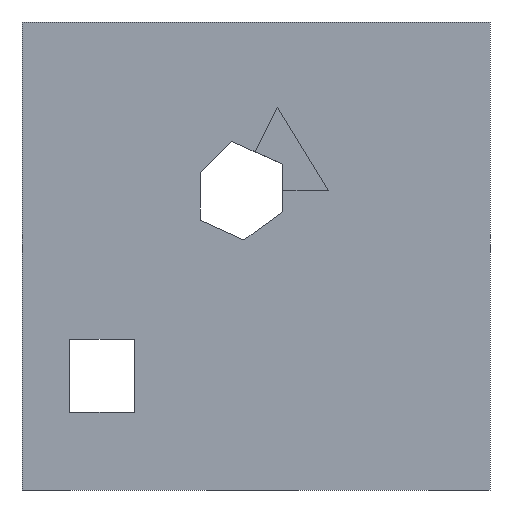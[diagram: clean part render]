
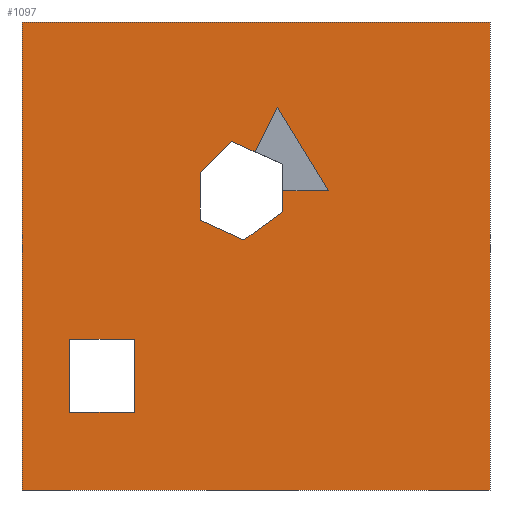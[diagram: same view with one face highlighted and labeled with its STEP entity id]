
A CAD part, front view. The second image highlights one B-rep face of the part: STEP entity #1097.
In plain terms, the highlighted planar face has unit normal (0, -1, 0).
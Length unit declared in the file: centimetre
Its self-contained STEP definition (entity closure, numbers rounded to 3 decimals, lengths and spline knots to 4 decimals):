
#9 = CARTESIAN_POINT ( 'NONE',  ( 101.6068, 0., 322.6308 ) ) ;
#14 = EDGE_CURVE ( 'NONE', #613, #1348, #442, .T. ) ;
#21 = VERTEX_POINT ( 'NONE', #1496 ) ;
#29 = DIRECTION ( 'NONE',  ( -0.911, 0., 0.412 ) ) ;
#37 = EDGE_CURVE ( 'NONE', #891, #518, #1052, .T. ) ;
#48 = CARTESIAN_POINT ( 'NONE',  ( 101.6068, 0., 166.4445 ) ) ;
#52 = CARTESIAN_POINT ( 'NONE',  ( 0., 0., 1000. ) ) ;
#54 = EDGE_CURVE ( 'NONE', #941, #331, #1016, .T. ) ;
#59 = EDGE_CURVE ( 'NONE', #96, #21, #193, .T. ) ;
#60 = ORIENTED_EDGE ( 'NONE', *, *, #14, .T. ) ;
#61 = DIRECTION ( 'NONE',  ( 0., 0., -1. ) ) ;
#90 = CARTESIAN_POINT ( 'NONE',  ( 1000., 0., 1000. ) ) ;
#96 = VERTEX_POINT ( 'NONE', #1067 ) ;
#103 = DIRECTION ( 'NONE',  ( 0., 0., 1. ) ) ;
#118 = VECTOR ( 'NONE', #29, 100. ) ;
#126 = CARTESIAN_POINT ( 'NONE',  ( 380.5098, 0., 576.5022 ) ) ;
#127 = VECTOR ( 'NONE', #1493, 100. ) ;
#138 = DIRECTION ( 'NONE',  ( 0.707, 0., 0.707 ) ) ;
#139 = ORIENTED_EDGE ( 'NONE', *, *, #1173, .T. ) ;
#164 = ORIENTED_EDGE ( 'NONE', *, *, #59, .F. ) ;
#171 = VECTOR ( 'NONE', #832, 100. ) ;
#193 = LINE ( 'NONE', #676, #361 ) ;
#200 = CARTESIAN_POINT ( 'NONE',  ( 474.02, 0., 534.2668 ) ) ;
#207 = ORIENTED_EDGE ( 'NONE', *, *, #1379, .T. ) ;
#224 = EDGE_CURVE ( 'NONE', #1199, #1278, #1201, .T. ) ;
#230 = LINE ( 'NONE', #1431, #598 ) ;
#258 = CARTESIAN_POINT ( 'NONE',  ( 474.02, 0., 534.2668 ) ) ;
#259 = CARTESIAN_POINT ( 'NONE',  ( 380.5098, 0., 678.6021 ) ) ;
#279 = EDGE_CURVE ( 'NONE', #740, #613, #1332, .T. ) ;
#305 = DIRECTION ( 'NONE',  ( 0., 0., -1. ) ) ;
#309 = CARTESIAN_POINT ( 'NONE',  ( 101.6068, 0., 166.4445 ) ) ;
#312 = VECTOR ( 'NONE', #448, 100. ) ;
#325 = VERTEX_POINT ( 'NONE', #1116 ) ;
#331 = VERTEX_POINT ( 'NONE', #1373 ) ;
#338 = DIRECTION ( 'NONE',  ( 1., 0., 0. ) ) ;
#339 = VECTOR ( 'NONE', #1336, 100. ) ;
#342 = ORIENTED_EDGE ( 'NONE', *, *, #827, .F. ) ;
#353 = CARTESIAN_POINT ( 'NONE',  ( 101.6068, 0., 322.6308 ) ) ;
#355 = CARTESIAN_POINT ( 'NONE',  ( 545.8273, 0., 816.9218 ) ) ;
#361 = VECTOR ( 'NONE', #779, 100. ) ;
#379 = EDGE_LOOP ( 'NONE', ( #1247, #1271, #1381, #139 ) ) ;
#403 = EDGE_CURVE ( 'NONE', #325, #891, #1211, .T. ) ;
#406 = FACE_BOUND ( 'NONE', #512, .T. ) ;
#424 = CARTESIAN_POINT ( 'NONE',  ( 380.5098, 0., 678.6021 ) ) ;
#442 = LINE ( 'NONE', #685, #1323 ) ;
#448 = DIRECTION ( 'NONE',  ( 0., 0., 1. ) ) ;
#460 = ORIENTED_EDGE ( 'NONE', *, *, #811, .T. ) ;
#481 = EDGE_CURVE ( 'NONE', #21, #1497, #606, .T. ) ;
#512 = EDGE_LOOP ( 'NONE', ( #1003, #460, #991, #1041 ) ) ;
#515 = CARTESIAN_POINT ( 'NONE',  ( 1000., 0., 0. ) ) ;
#518 = VERTEX_POINT ( 'NONE', #515 ) ;
#546 = VECTOR ( 'NONE', #61, 100. ) ;
#567 = EDGE_CURVE ( 'NONE', #1432, #941, #935, .T. ) ;
#576 = VECTOR ( 'NONE', #967, 100. ) ;
#598 = VECTOR ( 'NONE', #965, 100. ) ;
#604 = EDGE_CURVE ( 'NONE', #758, #740, #1433, .T. ) ;
#606 = LINE ( 'NONE', #611, #576 ) ;
#611 = CARTESIAN_POINT ( 'NONE',  ( 654.6686, 0., 639.394 ) ) ;
#613 = VERTEX_POINT ( 'NONE', #126 ) ;
#644 = ORIENTED_EDGE ( 'NONE', *, *, #604, .T. ) ;
#661 = PLANE ( 'NONE',  #1220 ) ;
#671 = DIRECTION ( 'NONE',  ( -0.451, 0., -0.892 ) ) ;
#676 = CARTESIAN_POINT ( 'NONE',  ( 456.0229, 0., 639.394 ) ) ;
#684 = VERTEX_POINT ( 'NONE', #48 ) ;
#685 = CARTESIAN_POINT ( 'NONE',  ( 380.5098, 0., 576.5022 ) ) ;
#740 = VERTEX_POINT ( 'NONE', #200 ) ;
#758 = VERTEX_POINT ( 'NONE', #919 ) ;
#775 = DIRECTION ( 'NONE',  ( 1., 0., 0. ) ) ;
#779 = DIRECTION ( 'NONE',  ( 1., 0., 0. ) ) ;
#803 = CARTESIAN_POINT ( 'NONE',  ( 0., 0., 0. ) ) ;
#810 = LINE ( 'NONE', #1057, #1195 ) ;
#811 = EDGE_CURVE ( 'NONE', #684, #1432, #934, .T. ) ;
#824 = CARTESIAN_POINT ( 'NONE',  ( 447.019, 0., 745.1113 ) ) ;
#827 = EDGE_CURVE ( 'NONE', #1497, #1278, #810, .T. ) ;
#832 = DIRECTION ( 'NONE',  ( 0.914, 0., -0.405 ) ) ;
#840 = ORIENTED_EDGE ( 'NONE', *, *, #279, .T. ) ;
#845 = VERTEX_POINT ( 'NONE', #803 ) ;
#850 = LINE ( 'NONE', #259, #995 ) ;
#885 = ORIENTED_EDGE ( 'NONE', *, *, #224, .T. ) ;
#887 = DIRECTION ( 'NONE',  ( 0., 1., 0. ) ) ;
#891 = VERTEX_POINT ( 'NONE', #90 ) ;
#900 = DIRECTION ( 'NONE',  ( 0., 0., -1. ) ) ;
#919 = CARTESIAN_POINT ( 'NONE',  ( 557.352, 0., 594.1314 ) ) ;
#926 = CARTESIAN_POINT ( 'NONE',  ( 557.352, 0., 696.2313 ) ) ;
#934 = LINE ( 'NONE', #309, #312 ) ;
#935 = LINE ( 'NONE', #353, #1542 ) ;
#941 = VERTEX_POINT ( 'NONE', #1192 ) ;
#965 = DIRECTION ( 'NONE',  ( -1., 0., 0. ) ) ;
#967 = DIRECTION ( 'NONE',  ( -0.523, 0., 0.853 ) ) ;
#968 = VECTOR ( 'NONE', #305, 100. ) ;
#987 = CARTESIAN_POINT ( 'NONE',  ( 0., 0., 0. ) ) ;
#991 = ORIENTED_EDGE ( 'NONE', *, *, #567, .T. ) ;
#995 = VECTOR ( 'NONE', #138, 100. ) ;
#1003 = ORIENTED_EDGE ( 'NONE', *, *, #1014, .T. ) ;
#1011 = FACE_OUTER_BOUND ( 'NONE', #379, .T. ) ;
#1014 = EDGE_CURVE ( 'NONE', #331, #684, #230, .T. ) ;
#1016 = LINE ( 'NONE', #1488, #1467 ) ;
#1041 = ORIENTED_EDGE ( 'NONE', *, *, #54, .T. ) ;
#1052 = LINE ( 'NONE', #1158, #968 ) ;
#1057 = CARTESIAN_POINT ( 'NONE',  ( 545.8273, 0., 816.9218 ) ) ;
#1060 = EDGE_CURVE ( 'NONE', #1348, #1199, #850, .T. ) ;
#1067 = CARTESIAN_POINT ( 'NONE',  ( 557.352, 0., 639.394 ) ) ;
#1082 = CARTESIAN_POINT ( 'NONE',  ( 0., 0., 1000. ) ) ;
#1097 = ADVANCED_FACE ( 'NONE', ( #1471, #406, #1011 ), #661, .F. ) ;
#1114 = CARTESIAN_POINT ( 'NONE',  ( 447.019, 0., 745.1113 ) ) ;
#1115 = EDGE_CURVE ( 'NONE', #845, #518, #1225, .T. ) ;
#1116 = CARTESIAN_POINT ( 'NONE',  ( 0., 0., 1000. ) ) ;
#1134 = LINE ( 'NONE', #52, #546 ) ;
#1153 = CARTESIAN_POINT ( 'NONE',  ( 498.062, 0., 722.4981 ) ) ;
#1158 = CARTESIAN_POINT ( 'NONE',  ( 1000., 0., 1000. ) ) ;
#1170 = VECTOR ( 'NONE', #1193, 100. ) ;
#1173 = EDGE_CURVE ( 'NONE', #325, #845, #1134, .T. ) ;
#1192 = CARTESIAN_POINT ( 'NONE',  ( 240.4184, 0., 322.6308 ) ) ;
#1193 = DIRECTION ( 'NONE',  ( -0.812, 0., -0.583 ) ) ;
#1195 = VECTOR ( 'NONE', #671, 100. ) ;
#1199 = VERTEX_POINT ( 'NONE', #1114 ) ;
#1201 = LINE ( 'NONE', #824, #171 ) ;
#1211 = LINE ( 'NONE', #1082, #339 ) ;
#1220 = AXIS2_PLACEMENT_3D ( 'NONE', #1476, #887, #1341 ) ;
#1225 = LINE ( 'NONE', #987, #1443 ) ;
#1247 = ORIENTED_EDGE ( 'NONE', *, *, #1115, .T. ) ;
#1253 = ORIENTED_EDGE ( 'NONE', *, *, #1060, .T. ) ;
#1271 = ORIENTED_EDGE ( 'NONE', *, *, #37, .F. ) ;
#1278 = VERTEX_POINT ( 'NONE', #1153 ) ;
#1323 = VECTOR ( 'NONE', #103, 100. ) ;
#1332 = LINE ( 'NONE', #258, #118 ) ;
#1336 = DIRECTION ( 'NONE',  ( 1., 0., 0. ) ) ;
#1341 = DIRECTION ( 'NONE',  ( 0., 0., 1. ) ) ;
#1348 = VERTEX_POINT ( 'NONE', #424 ) ;
#1373 = CARTESIAN_POINT ( 'NONE',  ( 240.4184, 0., 166.4445 ) ) ;
#1379 = EDGE_CURVE ( 'NONE', #96, #758, #1383, .T. ) ;
#1381 = ORIENTED_EDGE ( 'NONE', *, *, #403, .F. ) ;
#1383 = LINE ( 'NONE', #926, #127 ) ;
#1398 = ORIENTED_EDGE ( 'NONE', *, *, #481, .F. ) ;
#1431 = CARTESIAN_POINT ( 'NONE',  ( 101.6068, 0., 166.4445 ) ) ;
#1432 = VERTEX_POINT ( 'NONE', #9 ) ;
#1433 = LINE ( 'NONE', #1532, #1170 ) ;
#1443 = VECTOR ( 'NONE', #775, 100. ) ;
#1467 = VECTOR ( 'NONE', #900, 100. ) ;
#1470 = EDGE_LOOP ( 'NONE', ( #164, #207, #644, #840, #60, #1253, #885, #342, #1398 ) ) ;
#1471 = FACE_BOUND ( 'NONE', #1470, .T. ) ;
#1476 = CARTESIAN_POINT ( 'NONE',  ( 0., 0., 1000. ) ) ;
#1488 = CARTESIAN_POINT ( 'NONE',  ( 240.4184, 0., 166.4445 ) ) ;
#1493 = DIRECTION ( 'NONE',  ( 0., 0., -1. ) ) ;
#1496 = CARTESIAN_POINT ( 'NONE',  ( 654.6686, 0., 639.394 ) ) ;
#1497 = VERTEX_POINT ( 'NONE', #355 ) ;
#1532 = CARTESIAN_POINT ( 'NONE',  ( 557.352, 0., 594.1314 ) ) ;
#1542 = VECTOR ( 'NONE', #338, 100. ) ;
